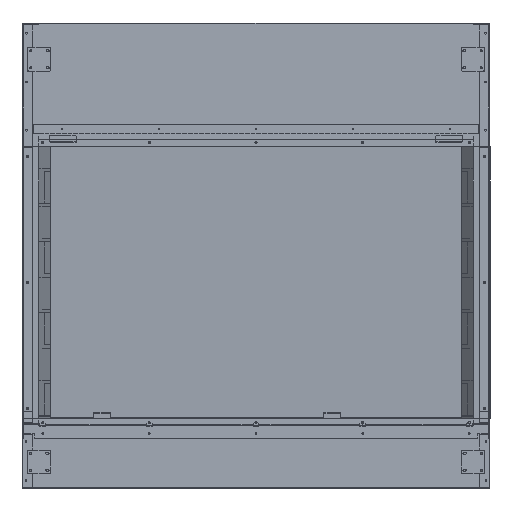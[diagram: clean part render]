
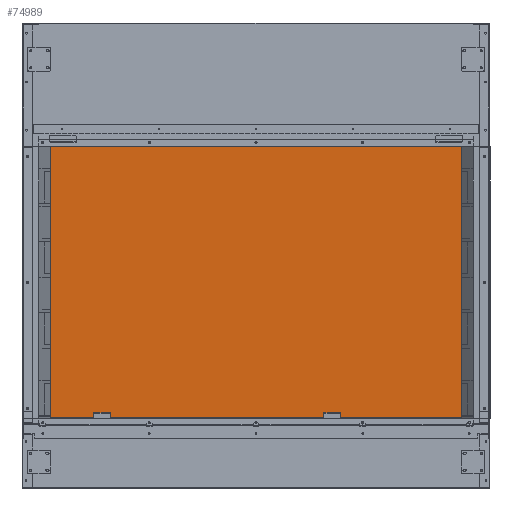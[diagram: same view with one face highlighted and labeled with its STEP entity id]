
A CAD part, front view. The second image highlights one B-rep face of the part: STEP entity #74989.
In plain terms, the highlighted planar face has unit normal (0, -0.999, -0.047) as drawn and (0, 0, -1) by its records, which use the part's own axes.
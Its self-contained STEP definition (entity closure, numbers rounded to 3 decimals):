
#74830=DIRECTION('',(0.,-1.,0.));
#74831=VECTOR('',#74830,566.);
#74832=CARTESIAN_POINT('',(423.,283.,0.));
#74833=LINE('',#74832,#74831);
#74834=DIRECTION('',(1.,0.,0.));
#74835=VECTOR('',#74834,846.);
#74836=CARTESIAN_POINT('',(-423.,283.,0.));
#74837=LINE('',#74836,#74835);
#74838=DIRECTION('',(0.,1.,0.));
#74839=VECTOR('',#74838,566.);
#74840=CARTESIAN_POINT('',(-423.,-283.,0.));
#74841=LINE('',#74840,#74839);
#74842=DIRECTION('',(-1.,0.,0.));
#74843=VECTOR('',#74842,846.);
#74844=CARTESIAN_POINT('',(423.,-283.,0.));
#74845=LINE('',#74844,#74843);
#74958=CARTESIAN_POINT('',(423.,283.,0.));
#74959=CARTESIAN_POINT('',(423.,-283.,0.));
#74960=VERTEX_POINT('',#74958);
#74961=VERTEX_POINT('',#74959);
#74966=CARTESIAN_POINT('',(-423.,-283.,0.));
#74967=VERTEX_POINT('',#74966);
#74972=CARTESIAN_POINT('',(-423.,283.,0.));
#74973=VERTEX_POINT('',#74972);
#74974=CARTESIAN_POINT('',(0.,0.,0.));
#74975=DIRECTION('',(0.,0.,1.));
#74976=DIRECTION('',(1.,0.,0.));
#74977=AXIS2_PLACEMENT_3D('',#74974,#74975,#74976);
#74978=PLANE('',#74977);
#74980=ORIENTED_EDGE('',*,*,#74979,.F.);
#74982=ORIENTED_EDGE('',*,*,#74981,.F.);
#74984=ORIENTED_EDGE('',*,*,#74983,.F.);
#74986=ORIENTED_EDGE('',*,*,#74985,.F.);
#74987=EDGE_LOOP('',(#74980,#74982,#74984,#74986));
#74988=FACE_OUTER_BOUND('',#74987,.F.);
#74989=ADVANCED_FACE('',(#74988),#74978,.F.);
#74979=EDGE_CURVE('',#74960,#74961,#74833,.T.);
#74981=EDGE_CURVE('',#74973,#74960,#74837,.T.);
#74983=EDGE_CURVE('',#74967,#74973,#74841,.T.);
#74985=EDGE_CURVE('',#74961,#74967,#74845,.T.);
